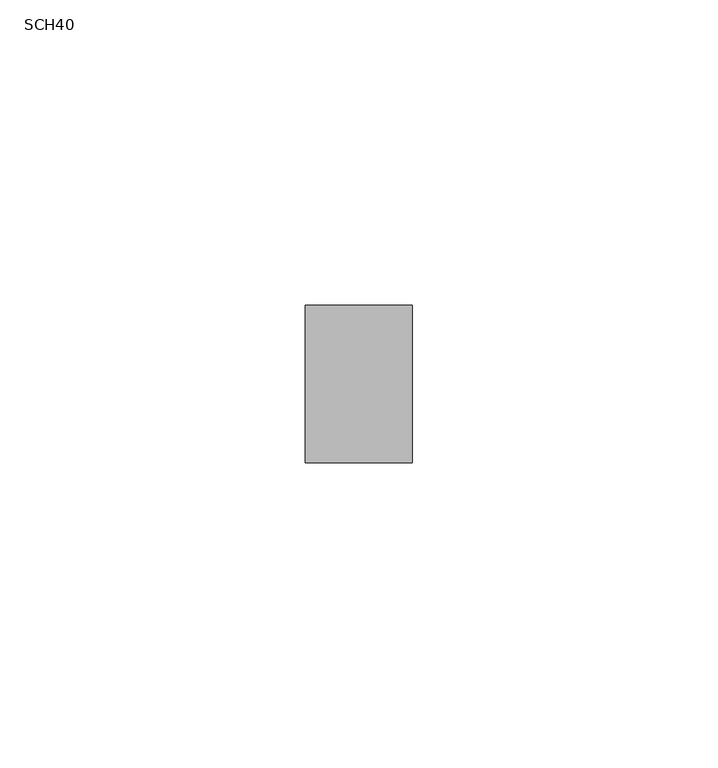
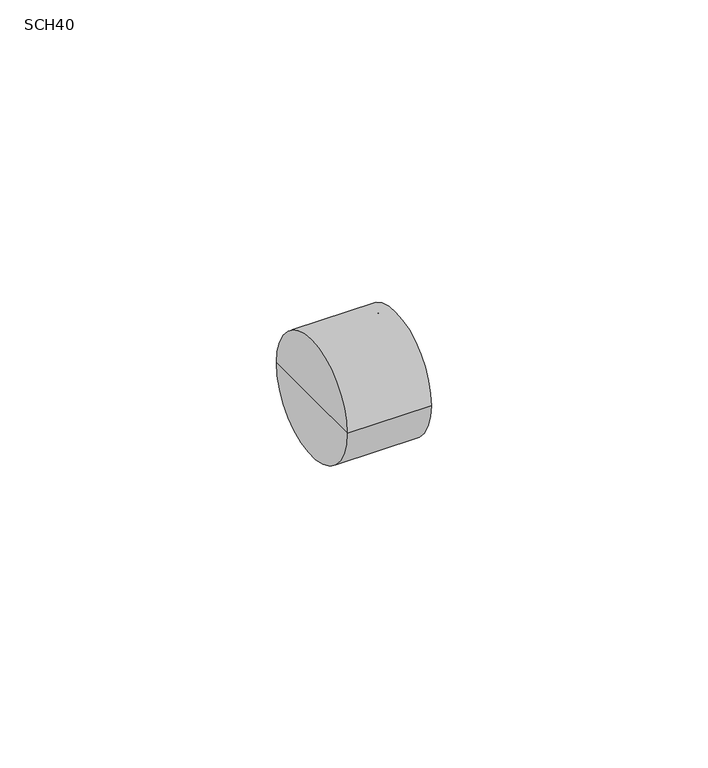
"""IFC4 building model written with IfcOpenShell, lengths in millimetres: cable carrier fitting geometry, PavcoWavin_ConduitFittings_ZnoUsarAdaptadorTerminal : SCH40."""

from ifc_helpers import new_model, si_unit, frame, origin, place, context, project, spatial, polyline, circle_curve, source, transform, mapped, element, save
from ifc_brep_helpers import plane_surface, cylinder_surface, revolved_surface, advanced_brep


def sch40_a225065a(model_context):
    return source(origin(), model_context, "Body", "AdvancedBrep", [
        advanced_brep(
        [(17.48, -12.86, 0.0), (17.48, 12.86, 0.0), (17.48, 10.75, 0.0), (17.48, -10.75, 0.0), (0.0, -12.86, 0.0), (0.0, 12.86, 0.0), (0.0, 0.0, 0.0), (2.5, -10.75, 0.0), (2.5, 10.75, 0.0), (2.5, 0.0, 0.0)],
        [
            (0, 1, circle_curve(frame((17.48, 0.0, 0.0), z_axis=(1.0, 0.0, 0.0), x_axis=(0.0, 1.0, 0.0)), 12.86)),
            (1, 2),
            (2, 3, circle_curve(frame((17.48, 0.0, 0.0), z_axis=(-1.0, 0.0, 0.0), x_axis=(0.0, 1.0, 0.0)), 10.75)),
            (3, 0),
            (1, 0, circle_curve(frame((17.48, 0.0, 0.0), z_axis=(1.0, 0.0, 0.0), x_axis=(0.0, 1.0, 0.0)), 12.86)),
            (3, 2, circle_curve(frame((17.48, 0.0, 0.0), z_axis=(-1.0, 0.0, 0.0), x_axis=(0.0, 1.0, 0.0)), 10.75)),
            (4, 5, circle_curve(frame((0.0, 0.0, 0.0), z_axis=(1.0, 0.0, 0.0), x_axis=(0.0, 1.0, 0.0)), 12.86)),
            (5, 1),
            (0, 4),
            (5, 4, circle_curve(frame((0.0, 0.0, 0.0), z_axis=(1.0, 0.0, 0.0), x_axis=(0.0, 1.0, 0.0)), 12.86)),
            (6, 5),
            (4, 6),
            (7, 8, circle_curve(frame((2.5, 0.0, 0.0), z_axis=(1.0, 0.0, 0.0), x_axis=(0.0, 1.0, 0.0)), 10.75)),
            (8, 9),
            (9, 7),
            (8, 7, circle_curve(frame((2.5, 0.0, 0.0), z_axis=(1.0, 0.0, 0.0), x_axis=(0.0, 1.0, 0.0)), 10.75)),
            (2, 8),
            (7, 3),
        ],
        [
            plane_surface(frame((17.48, 0.0, 0.0), z_axis=(1.0, 0.0, 0.0), x_axis=(0.0, 1.0, 0.0))),
            cylinder_surface(frame((2001.25, 0.0, 0.0), z_axis=(-1.0, 0.0, 0.0), x_axis=(0.0, 1.0, 0.0)), 12.86),
            plane_surface(frame((0.0, 0.0, 0.0), z_axis=(-1.0, 0.0, 0.0), x_axis=(0.0, 1.0, 0.0))),
            plane_surface(frame((2.5, 0.0, 0.0), z_axis=(1.0, 0.0, 0.0), x_axis=(0.0, 1.0, 0.0))),
            revolved_surface(polyline([(2.5, 10.75, 0.0), (17.480000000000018, 10.75, 0.0)]), (2001.25, 0.0, 0.0), (-1.0, 0.0, 0.0)),
        ],
        [
            (0, [[1, 2, 3, 4]]),
            (0, [[5, -4, 6, -2]]),
            (1, [[7, 8, -1, 9]]),
            (1, [[10, -9, -5, -8]]),
            (2, [[11, -7, 12]]),
            (2, [[-12, -10, -11]]),
            (3, [[13, 14, 15]]),
            (3, [[16, -15, -14]]),
            (4, [[-3, 17, -13, 18]]),
            (4, [[-6, -18, -16, -17]]),
        ],
    ),
    ])


if __name__ == "__main__":
    model = new_model("IFC4")
    model_context = context("Model", 3, world=origin())
    ifc_project = project(units=[si_unit("LENGTHUNIT", "METRE", prefix="MILLI")], contexts=[model_context])
    site = spatial("IfcSite", under=ifc_project)
    building = spatial("IfcBuilding", under=site)
    placement = place(None, origin())
    sch40_shape = sch40_a225065a(model_context)
    element("IfcCableCarrierFitting", 1, ObjectType="PavcoWavin_ConduitFittings_ZnoUsarAdaptadorTerminal : SCH40", at=placement, inside=building, context=model_context, shape_type="MappedRepresentation", body=[
        mapped(sch40_shape, transform((0.0, 0.0, 0.0), x_axis=(1.0, 0.0, 0.0), y_axis=(0.0, 1.0, 0.0), z_axis=(0.0, 0.0, 1.0))),
    ])
    save(model, "model.ifc")
